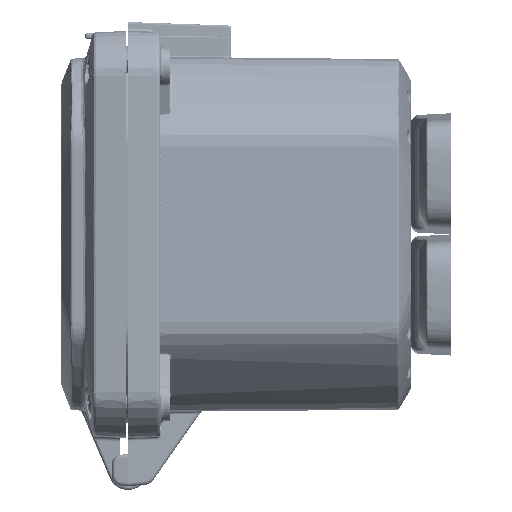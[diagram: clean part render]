
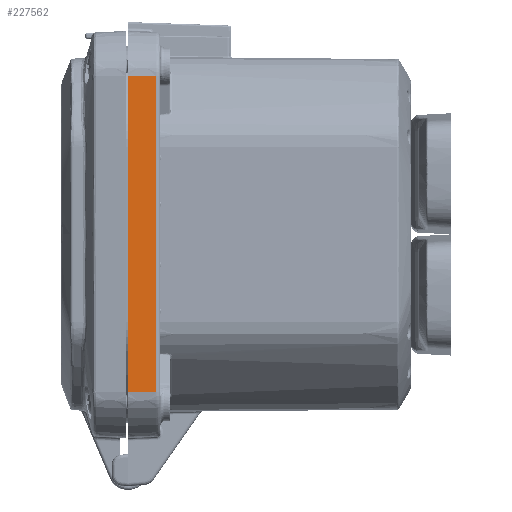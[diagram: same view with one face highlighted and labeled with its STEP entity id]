
A CAD part, left-side view. The second image highlights one B-rep face of the part: STEP entity #227562.
In plain terms, the highlighted planar face has unit normal (-0.999, -0.035, 0).
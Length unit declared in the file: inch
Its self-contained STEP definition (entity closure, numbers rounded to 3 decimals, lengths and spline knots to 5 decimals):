
#9059 = PLANE ( 'NONE',  #34798 ) ;
#13159 = VERTEX_POINT ( 'NONE', #176587 ) ;
#14129 = CARTESIAN_POINT ( 'NONE',  ( -3.50772, -0.35174, 1.95755 ) ) ;
#16290 = ORIENTED_EDGE ( 'NONE', *, *, #68296, .T. ) ;
#34798 = AXIS2_PLACEMENT_3D ( 'NONE', #119429, #86912, #211824 ) ;
#37669 = VECTOR ( 'NONE', #78636, 39.37008 ) ;
#48555 = ORIENTED_EDGE ( 'NONE', *, *, #151040, .F. ) ;
#54570 = CARTESIAN_POINT ( 'NONE',  ( -3.52, 0., -1.95755 ) ) ;
#55323 = ORIENTED_EDGE ( 'NONE', *, *, #138195, .F. ) ;
#61362 = VECTOR ( 'NONE', #174958, 39.37008 ) ;
#68072 = LINE ( 'NONE', #158105, #61362 ) ;
#68296 = EDGE_CURVE ( 'NONE', #131524, #161419, #115822, .T. ) ;
#78636 = DIRECTION ( 'NONE',  ( 0.035, -0.999, 0. ) ) ;
#82211 = FACE_OUTER_BOUND ( 'NONE', #193253, .T. ) ;
#86912 = DIRECTION ( 'NONE',  ( -0.999, -0.035, 0. ) ) ;
#115822 = LINE ( 'NONE', #172256, #37669 ) ;
#119429 = CARTESIAN_POINT ( 'NONE',  ( -3.52, 0., 2.2 ) ) ;
#129681 = EDGE_CURVE ( 'NONE', #161419, #196478, #178557, .T. ) ;
#131524 = VERTEX_POINT ( 'NONE', #54570 ) ;
#133436 = CARTESIAN_POINT ( 'NONE',  ( -3.50772, -0.35174, 1.95755 ) ) ;
#138195 = EDGE_CURVE ( 'NONE', #13159, #196478, #68072, .T. ) ;
#151040 = EDGE_CURVE ( 'NONE', #131524, #13159, #178249, .T. ) ;
#158105 = CARTESIAN_POINT ( 'NONE',  ( -3.52, 0., 1.95755 ) ) ;
#161419 = VERTEX_POINT ( 'NONE', #197327 ) ;
#172256 = CARTESIAN_POINT ( 'NONE',  ( -3.52, 0., -1.95755 ) ) ;
#174958 = DIRECTION ( 'NONE',  ( 0.035, -0.999, 0. ) ) ;
#176587 = CARTESIAN_POINT ( 'NONE',  ( -3.52, 0., 1.95755 ) ) ;
#178249 = LINE ( 'NONE', #215399, #211961 ) ;
#178557 = LINE ( 'NONE', #14129, #217266 ) ;
#193253 = EDGE_LOOP ( 'NONE', ( #213929, #55323, #48555, #16290 ) ) ;
#196478 = VERTEX_POINT ( 'NONE', #133436 ) ;
#197327 = CARTESIAN_POINT ( 'NONE',  ( -3.50772, -0.35174, -1.95755 ) ) ;
#197715 = DIRECTION ( 'NONE',  ( 0., 0., 1. ) ) ;
#211824 = DIRECTION ( 'NONE',  ( 0.035, -0.999, 0. ) ) ;
#211961 = VECTOR ( 'NONE', #229942, 39.37008 ) ;
#213929 = ORIENTED_EDGE ( 'NONE', *, *, #129681, .T. ) ;
#215399 = CARTESIAN_POINT ( 'NONE',  ( -3.52, 0., 2.2 ) ) ;
#217266 = VECTOR ( 'NONE', #197715, 39.37008 ) ;
#227562 = ADVANCED_FACE ( 'NONE', ( #82211 ), #9059, .T. ) ;
#229942 = DIRECTION ( 'NONE',  ( 0., 0., 1. ) ) ;
